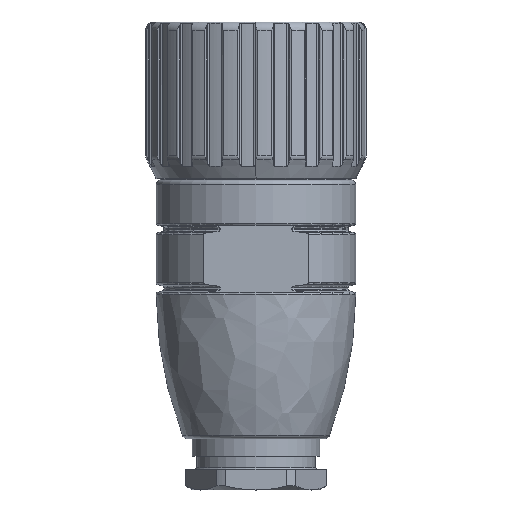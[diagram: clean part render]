
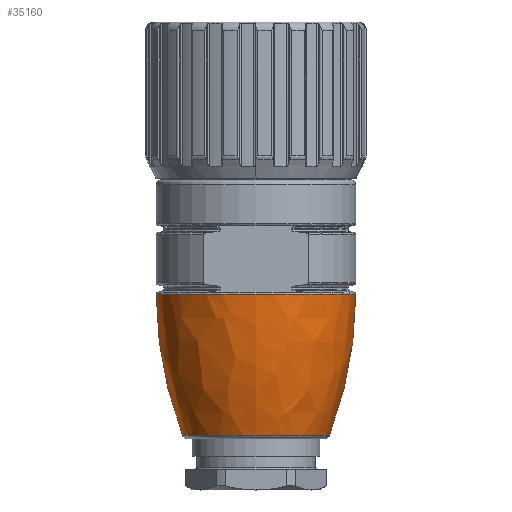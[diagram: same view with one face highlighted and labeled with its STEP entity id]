
A CAD part, left-side view. The second image highlights one B-rep face of the part: STEP entity #35160.
In plain terms, the highlighted free-form (B-spline) face has degree [3, 3] with [4, 4] control points.
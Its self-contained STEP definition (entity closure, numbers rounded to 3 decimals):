
#13127=CARTESIAN_POINT('',(0.,0.,-14.354));
#13128=DIRECTION('',(0.,0.,-1.));
#13129=DIRECTION('',(0.,-1.,0.));
#13130=AXIS2_PLACEMENT_3D('',#13127,#13128,#13129);
#13137=CARTESIAN_POINT('',(0.,35.244,-14.2));
#13138=DIRECTION('',(1.,0.,0.));
#13139=DIRECTION('',(0.,-1.,-0.003));
#13140=AXIS2_PLACEMENT_3D('',#13137,#13138,#13139);
#13142=CARTESIAN_POINT('',(0.,-35.244,-14.2));
#13143=DIRECTION('',(-1.,0.,0.));
#13144=DIRECTION('',(0.,1.,-0.003));
#13145=AXIS2_PLACEMENT_3D('',#13142,#13143,#13144);
#13177=CARTESIAN_POINT('',(0.,0.,-31.015));
#13178=DIRECTION('',(0.,0.,-1.));
#13179=DIRECTION('',(0.,-1.,0.));
#13180=AXIS2_PLACEMENT_3D('',#13177,#13178,#13179);
#15602=CARTESIAN_POINT('',(0.,8.65,
-31.015));
#15603=CARTESIAN_POINT('',(0.,-8.65,
-31.015));
#15604=VERTEX_POINT('',#15602);
#15605=VERTEX_POINT('',#15603);
#15610=CARTESIAN_POINT('',(0.,11.76,
-14.354));
#15611=CARTESIAN_POINT('',(0.,-11.76,
-14.354));
#15612=VERTEX_POINT('',#15610);
#15613=VERTEX_POINT('',#15611);
#35134=CARTESIAN_POINT('',(0.,8.65,-31.015));
#35135=CARTESIAN_POINT('',(0.,10.693,-25.681));
#35136=CARTESIAN_POINT('',(0.,11.741,-20.066));
#35137=CARTESIAN_POINT('',(0.,11.76,-14.354));
#35138=CARTESIAN_POINT('',(-17.299,8.65,
-31.015));
#35139=CARTESIAN_POINT('',(-21.386,10.693,
-25.681));
#35140=CARTESIAN_POINT('',(-23.482,11.741,
-20.066));
#35141=CARTESIAN_POINT('',(-23.519,11.76,
-14.354));
#35142=CARTESIAN_POINT('',(-17.299,-8.65,
-31.015));
#35143=CARTESIAN_POINT('',(-21.386,-10.693,
-25.681));
#35144=CARTESIAN_POINT('',(-23.482,-11.741,
-20.066));
#35145=CARTESIAN_POINT('',(-23.519,-11.76,
-14.354));
#35146=CARTESIAN_POINT('',(0.,-8.65,-31.015));
#35147=CARTESIAN_POINT('',(0.,-10.693,-25.681));
#35148=CARTESIAN_POINT('',(0.,-11.741,-20.066));
#35149=CARTESIAN_POINT('',(0.,-11.76,-14.354));
#35150=(BOUNDED_SURFACE()B_SPLINE_SURFACE(3,3,((#35134,#35135,#35136,#35137),(
#35138,#35139,#35140,#35141),(#35142,#35143,#35144,#35145),(#35146,#35147,
#35148,#35149)),.UNSPECIFIED.,.F.,.F.,.F.)B_SPLINE_SURFACE_WITH_KNOTS((4,4),(4,
4),(0.,1.),(0.,1.),.UNSPECIFIED.)GEOMETRIC_REPRESENTATION_ITEM()RATIONAL_B_SPLINE_SURFACE(((2.017,1.994,1.994,
2.017),(0.672,0.665,0.665,
0.672),(0.672,0.665,0.665,
0.672),(2.017,1.994,1.994,
2.017)))REPRESENTATION_ITEM('')SURFACE());
#35151=ORIENTED_EDGE('',*,*,#35127,.F.);
#35153=ORIENTED_EDGE('',*,*,#35152,.T.);
#35155=ORIENTED_EDGE('',*,*,#35154,.T.);
#35157=ORIENTED_EDGE('',*,*,#35156,.F.);
#35158=EDGE_LOOP('',(#35151,#35153,#35155,#35157));
#35159=FACE_OUTER_BOUND('',#35158,.F.);
#35160=ADVANCED_FACE('',(#35159),#35150,.T.);
#13131=CIRCLE('',#13130,11.76);
#13141=CIRCLE('',#13140,47.004);
#13146=CIRCLE('',#13145,47.004);
#13181=CIRCLE('',#13180,8.65);
#35127=EDGE_CURVE('',#15613,#15612,#13131,.T.);
#35152=EDGE_CURVE('',#15613,#15605,#13141,.T.);
#35154=EDGE_CURVE('',#15605,#15604,#13181,.T.);
#35156=EDGE_CURVE('',#15612,#15604,#13146,.T.);
